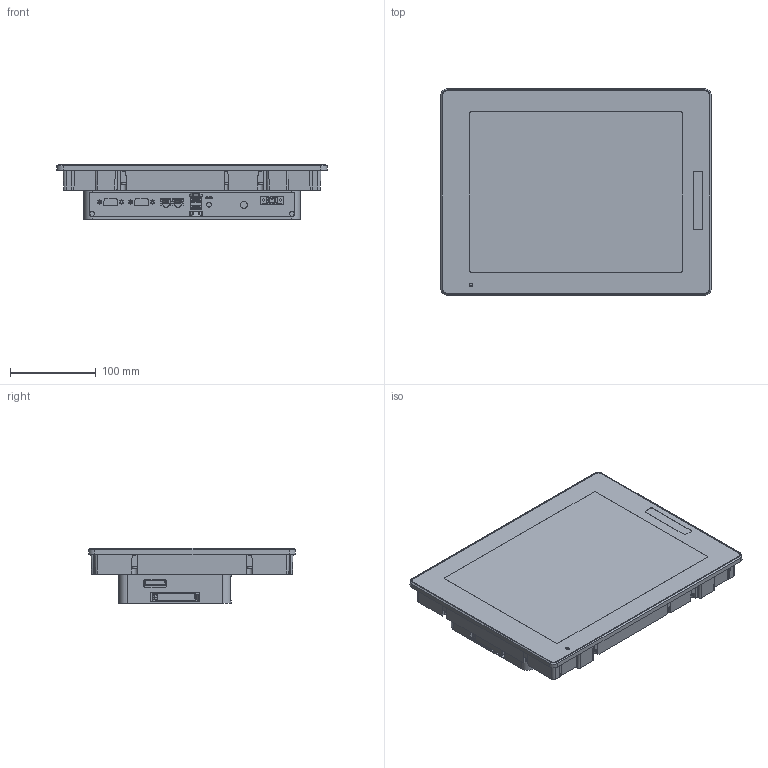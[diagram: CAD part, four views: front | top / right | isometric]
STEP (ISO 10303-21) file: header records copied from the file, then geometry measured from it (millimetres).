
FILE_DESCRIPTION (( 'STEP AP203' ), '1' );
FILE_NAME ('PFXGP6640TMAI_3D_simpl.STEP', '2024-05-30T14:27:52', ( '' ), ( '' ), 'SwSTEP 2.0', 'SolidWorks 2017', '' );
FILE_SCHEMA (( 'CONFIG_CONTROL_DESIGN' ));
Products named in the file (1): PFXGP6640TMAI_3D_simpl
Bounding box: 315 x 241 x 64.28 mm (x, y, z)
Volume: 3140213.2 mm3; surface area: 245424.3 mm2
Topology: 7 solids, 14 shells, 2203 faces, 6144 edges, 4027 vertices
Faces by surface type: plane 1598, cylinder 439, bspline 125, cone 24, torus 10, sphere 7
Full cylindrical faces by diameter (mm): 2.5 x2, 2.8 x1, 2.845 x4, 3.5 x4, 3.6 x1, 4 x4, 4.1 x8, 5.6 x25, 8 x5, 8.454 x6
Entity records: 79353 total; most frequent: CARTESIAN_POINT 24331, ORIENTED_EDGE 12074, DIRECTION 10220, EDGE_CURVE 6037, VECTOR 4664, LINE 4664, VERTEX_POINT 4004, AXIS2_PLACEMENT_3D 2778
